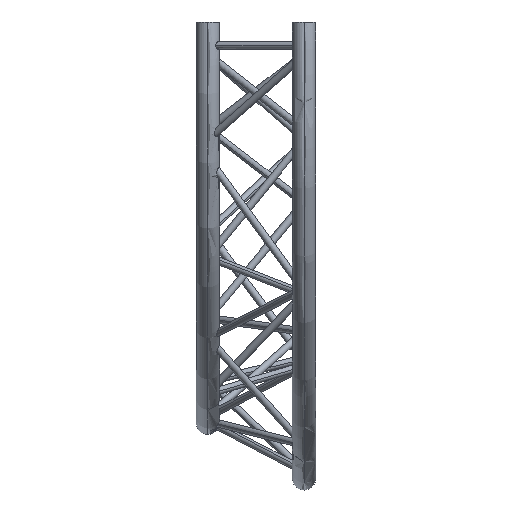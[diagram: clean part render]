
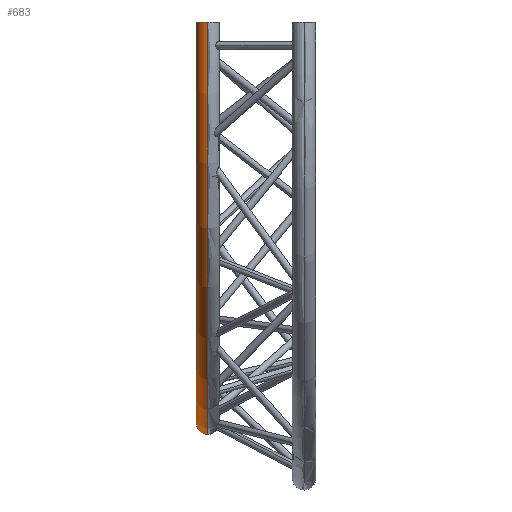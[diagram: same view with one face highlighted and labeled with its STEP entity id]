
A CAD part, left-side view. The second image highlights one B-rep face of the part: STEP entity #683.
In plain terms, the highlighted toroidal (fillet/blend) face has major radius 856.5 mm and minor radius 25 mm.
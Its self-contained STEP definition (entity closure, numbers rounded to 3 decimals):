
#54 = VERTEX_POINT ( 'NONE', #1638 ) ;
#68 = VERTEX_POINT ( 'NONE', #1758 ) ;
#137 = VERTEX_POINT ( 'NONE', #2436 ) ;
#681 = ORIENTED_EDGE ( 'NONE', *, *, #682, .T. ) ;
#682 = EDGE_CURVE ( 'NONE', #54, #68, #5633, .T. ) ;
#683 = ADVANCED_FACE ( 'NONE', ( #5634 ), #5628, .T. ) ;
#687 = EDGE_LOOP ( 'NONE', ( #693, #681, #689, #690 ) ) ;
#689 = ORIENTED_EDGE ( 'NONE', *, *, #9727, .T. ) ;
#690 = ORIENTED_EDGE ( 'NONE', *, *, #692, .T. ) ;
#692 = EDGE_CURVE ( 'NONE', #137, #970, #5614, .T. ) ;
#693 = ORIENTED_EDGE ( 'NONE', *, *, #10005, .F. ) ;
#970 = VERTEX_POINT ( 'NONE', #7751 ) ;
#1638 = CARTESIAN_POINT ( 'NONE',  ( -881.5, 136.832, 0. ) ) ;
#1758 = CARTESIAN_POINT ( 'NONE',  ( -831.5, 136.832, 0. ) ) ;
#2436 = CARTESIAN_POINT ( 'NONE',  ( 0., 136.832, -831.5 ) ) ;
#5614 = CIRCLE ( 'NONE', #5679, 25. ) ;
#5623 = DIRECTION ( 'NONE',  ( 0., 0., -1. ) ) ;
#5624 = DIRECTION ( 'NONE',  ( 0., -1., 0. ) ) ;
#5625 = CARTESIAN_POINT ( 'NONE',  ( 0., 136.832, 0. ) ) ;
#5626 = AXIS2_PLACEMENT_3D ( 'NONE', #5625, #5624, #5623 ) ;
#5628 = TOROIDAL_SURFACE ( 'NONE', #5626, 856.5, 25. ) ;
#5629 = DIRECTION ( 'NONE',  ( -1., 0., 0. ) ) ;
#5630 = DIRECTION ( 'NONE',  ( 0., 0., -1. ) ) ;
#5631 = CARTESIAN_POINT ( 'NONE',  ( -856.5, 136.832, 0. ) ) ;
#5632 = AXIS2_PLACEMENT_3D ( 'NONE', #5631, #5630, #5629 ) ;
#5633 = CIRCLE ( 'NONE', #5632, 25. ) ;
#5634 = FACE_OUTER_BOUND ( 'NONE', #687, .T. ) ;
#5676 = DIRECTION ( 'NONE',  ( 0., 0., 1. ) ) ;
#5677 = DIRECTION ( 'NONE',  ( -1., 0., 0. ) ) ;
#5678 = CARTESIAN_POINT ( 'NONE',  ( 0., 136.832, -856.5 ) ) ;
#5679 = AXIS2_PLACEMENT_3D ( 'NONE', #5678, #5677, #5676 ) ;
#7751 = CARTESIAN_POINT ( 'NONE',  ( 0., 136.832, -881.5 ) ) ;
#8367 = DIRECTION ( 'NONE',  ( 0., 0., -1. ) ) ;
#8368 = DIRECTION ( 'NONE',  ( 0., -1., 0. ) ) ;
#8369 = CARTESIAN_POINT ( 'NONE',  ( 0., 136.832, 0. ) ) ;
#8370 = AXIS2_PLACEMENT_3D ( 'NONE', #8369, #8368, #8367 ) ;
#8371 = CIRCLE ( 'NONE', #8370, 881.5 ) ;
#8373 = DIRECTION ( 'NONE',  ( 0., 0., -1. ) ) ;
#8374 = DIRECTION ( 'NONE',  ( 0., -1., 0. ) ) ;
#8375 = CARTESIAN_POINT ( 'NONE',  ( 0., 136.832, 0. ) ) ;
#8376 = AXIS2_PLACEMENT_3D ( 'NONE', #8375, #8374, #8373 ) ;
#8380 = CIRCLE ( 'NONE', #8376, 831.5 ) ;
#9727 = EDGE_CURVE ( 'NONE', #68, #137, #8380, .T. ) ;
#10005 = EDGE_CURVE ( 'NONE', #54, #970, #8371, .T. ) ;
